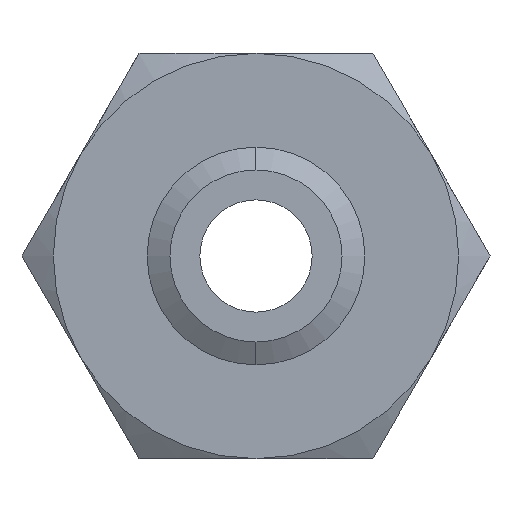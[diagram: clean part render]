
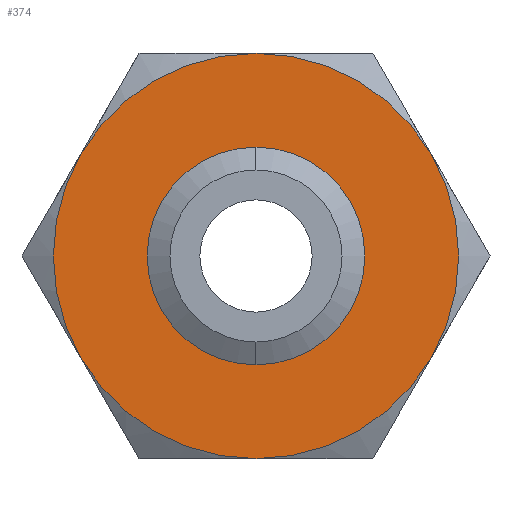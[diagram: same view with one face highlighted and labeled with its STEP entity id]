
A CAD part, front view. The second image highlights one B-rep face of the part: STEP entity #374.
In plain terms, the highlighted planar face has unit normal (0, -1, 0).
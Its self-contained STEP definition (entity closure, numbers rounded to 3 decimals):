
#329 = VERTEX_POINT ( 'NONE', #1054 ) ;
#330 = ORIENTED_EDGE ( 'NONE', *, *, #331, .F. ) ;
#331 = EDGE_CURVE ( 'NONE', #332, #329, #1050, .T. ) ;
#332 = VERTEX_POINT ( 'NONE', #1045 ) ;
#333 = ORIENTED_EDGE ( 'NONE', *, *, #334, .F. ) ;
#334 = EDGE_CURVE ( 'NONE', #335, #332, #1044, .T. ) ;
#335 = VERTEX_POINT ( 'NONE', #1103 ) ;
#336 = ORIENTED_EDGE ( 'NONE', *, *, #337, .F. ) ;
#337 = EDGE_CURVE ( 'NONE', #379, #335, #1102, .T. ) ;
#338 = EDGE_LOOP ( 'NONE', ( #339, #340 ) ) ;
#339 = ORIENTED_EDGE ( 'NONE', *, *, #2031, .F. ) ;
#340 = ORIENTED_EDGE ( 'NONE', *, *, #341, .F. ) ;
#341 = EDGE_CURVE ( 'NONE', #2024, #2026, #1097, .T. ) ;
#374 = ADVANCED_FACE ( 'NONE', ( #1145, #1144 ), #1143, .F. ) ;
#375 = EDGE_LOOP ( 'NONE', ( #376, #380, #383, #330, #333, #336 ) ) ;
#376 = ORIENTED_EDGE ( 'NONE', *, *, #377, .F. ) ;
#377 = EDGE_CURVE ( 'NONE', #378, #379, #1140, .T. ) ;
#378 = VERTEX_POINT ( 'NONE', #1197 ) ;
#379 = VERTEX_POINT ( 'NONE', #1196 ) ;
#380 = ORIENTED_EDGE ( 'NONE', *, *, #381, .F. ) ;
#381 = EDGE_CURVE ( 'NONE', #382, #378, #1195, .T. ) ;
#382 = VERTEX_POINT ( 'NONE', #1190 ) ;
#383 = ORIENTED_EDGE ( 'NONE', *, *, #384, .F. ) ;
#384 = EDGE_CURVE ( 'NONE', #329, #382, #1188, .T. ) ;
#1044 = CIRCLE ( 'NONE', #1107, 32.5 ) ;
#1045 = CARTESIAN_POINT ( 'NONE',  ( 0., 0., -32.5 ) ) ;
#1046 = DIRECTION ( 'NONE',  ( 0., 0., 1. ) ) ;
#1047 = DIRECTION ( 'NONE',  ( 0., 1., 0. ) ) ;
#1048 = CARTESIAN_POINT ( 'NONE',  ( 0., 0., 0. ) ) ;
#1049 = AXIS2_PLACEMENT_3D ( 'NONE', #1048, #1047, #1046 ) ;
#1050 = CIRCLE ( 'NONE', #1049, 32.5 ) ;
#1054 = CARTESIAN_POINT ( 'NONE',  ( -28.146, 0., -16.25 ) ) ;
#1093 = DIRECTION ( 'NONE',  ( 0., 0., -1. ) ) ;
#1094 = DIRECTION ( 'NONE',  ( 0., -1., 0. ) ) ;
#1095 = CARTESIAN_POINT ( 'NONE',  ( 0., 0., 0. ) ) ;
#1096 = AXIS2_PLACEMENT_3D ( 'NONE', #1095, #1094, #1093 ) ;
#1097 = CIRCLE ( 'NONE', #1096, 13.802 ) ;
#1098 = DIRECTION ( 'NONE',  ( 0., 0., 1. ) ) ;
#1099 = DIRECTION ( 'NONE',  ( 0., 1., 0. ) ) ;
#1100 = CARTESIAN_POINT ( 'NONE',  ( 0., 0., 0. ) ) ;
#1101 = AXIS2_PLACEMENT_3D ( 'NONE', #1100, #1099, #1098 ) ;
#1102 = CIRCLE ( 'NONE', #1101, 32.5 ) ;
#1103 = CARTESIAN_POINT ( 'NONE',  ( 28.146, 0., -16.25 ) ) ;
#1104 = DIRECTION ( 'NONE',  ( 0., 0., 1. ) ) ;
#1105 = DIRECTION ( 'NONE',  ( 0., 1., 0. ) ) ;
#1106 = CARTESIAN_POINT ( 'NONE',  ( 0., 0., 0. ) ) ;
#1107 = AXIS2_PLACEMENT_3D ( 'NONE', #1106, #1105, #1104 ) ;
#1137 = AXIS2_PLACEMENT_3D ( 'NONE', #1200, #1199, #1198 ) ;
#1138 = DIRECTION ( 'NONE',  ( 0., 0., 1. ) ) ;
#1139 = DIRECTION ( 'NONE',  ( 0., 1., 0. ) ) ;
#1140 = CIRCLE ( 'NONE', #1137, 32.5 ) ;
#1141 = CARTESIAN_POINT ( 'NONE',  ( 18.764, 0., -32.5 ) ) ;
#1142 = AXIS2_PLACEMENT_3D ( 'NONE', #1141, #1139, #1138 ) ;
#1143 = PLANE ( 'NONE',  #1142 ) ;
#1144 = FACE_BOUND ( 'NONE', #338, .T. ) ;
#1145 = FACE_OUTER_BOUND ( 'NONE', #375, .T. ) ;
#1184 = DIRECTION ( 'NONE',  ( 0., 0., 1. ) ) ;
#1185 = DIRECTION ( 'NONE',  ( 0., 1., 0. ) ) ;
#1186 = CARTESIAN_POINT ( 'NONE',  ( 0., 0., 0. ) ) ;
#1187 = AXIS2_PLACEMENT_3D ( 'NONE', #1186, #1185, #1184 ) ;
#1188 = CIRCLE ( 'NONE', #1187, 32.5 ) ;
#1190 = CARTESIAN_POINT ( 'NONE',  ( -28.146, 0., 16.25 ) ) ;
#1191 = DIRECTION ( 'NONE',  ( 0., 0., 1. ) ) ;
#1192 = DIRECTION ( 'NONE',  ( 0., 1., 0. ) ) ;
#1193 = CARTESIAN_POINT ( 'NONE',  ( 0., 0., 0. ) ) ;
#1194 = AXIS2_PLACEMENT_3D ( 'NONE', #1193, #1192, #1191 ) ;
#1195 = CIRCLE ( 'NONE', #1194, 32.5 ) ;
#1196 = CARTESIAN_POINT ( 'NONE',  ( 28.146, 0., 16.25 ) ) ;
#1197 = CARTESIAN_POINT ( 'NONE',  ( 0., 0., 32.5 ) ) ;
#1198 = DIRECTION ( 'NONE',  ( 0., 0., 1. ) ) ;
#1199 = DIRECTION ( 'NONE',  ( 0., 1., 0. ) ) ;
#1200 = CARTESIAN_POINT ( 'NONE',  ( 0., 0., 0. ) ) ;
#1674 = DIRECTION ( 'NONE',  ( 0., 0., -1. ) ) ;
#1675 = DIRECTION ( 'NONE',  ( 0., -1., 0. ) ) ;
#1676 = CARTESIAN_POINT ( 'NONE',  ( 0., 0., 0. ) ) ;
#1677 = AXIS2_PLACEMENT_3D ( 'NONE', #1676, #1675, #1674 ) ;
#1678 = CIRCLE ( 'NONE', #1677, 13.802 ) ;
#1686 = CARTESIAN_POINT ( 'NONE',  ( 0., 0., -13.802 ) ) ;
#1688 = CARTESIAN_POINT ( 'NONE',  ( 0., 0., 13.802 ) ) ;
#2024 = VERTEX_POINT ( 'NONE', #1688 ) ;
#2026 = VERTEX_POINT ( 'NONE', #1686 ) ;
#2031 = EDGE_CURVE ( 'NONE', #2026, #2024, #1678, .T. ) ;
